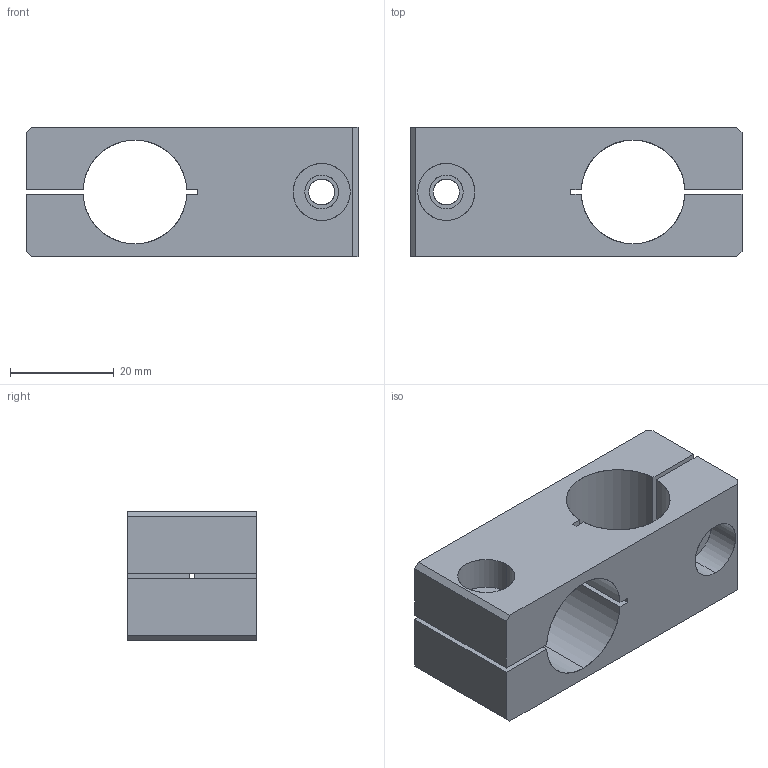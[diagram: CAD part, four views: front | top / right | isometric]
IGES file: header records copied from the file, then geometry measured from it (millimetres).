
Start section: SolidWorks IGES file using analytic representation for surfaces
Global section: file name: C:\Documents and Settings\CAD53\デスクトップ\IGES\N01861-206-1.IGS; native system: SolidWorks 2005 by SolidWorks Corporation; preprocessor: SolidWorks 2005 by SolidWorks Corporation; author: CAD53; date: 070530.102011; units: millimetre
Bounding box: 64 x 25 x 25 mm (x, y, z)
Surface area: 11452.4 mm2 (no closed solid volume)
Topology: 0 solids, 0 shells, 43 faces, 724 edges, 724 vertices
Faces by surface type: bspline 26, revolution 17
